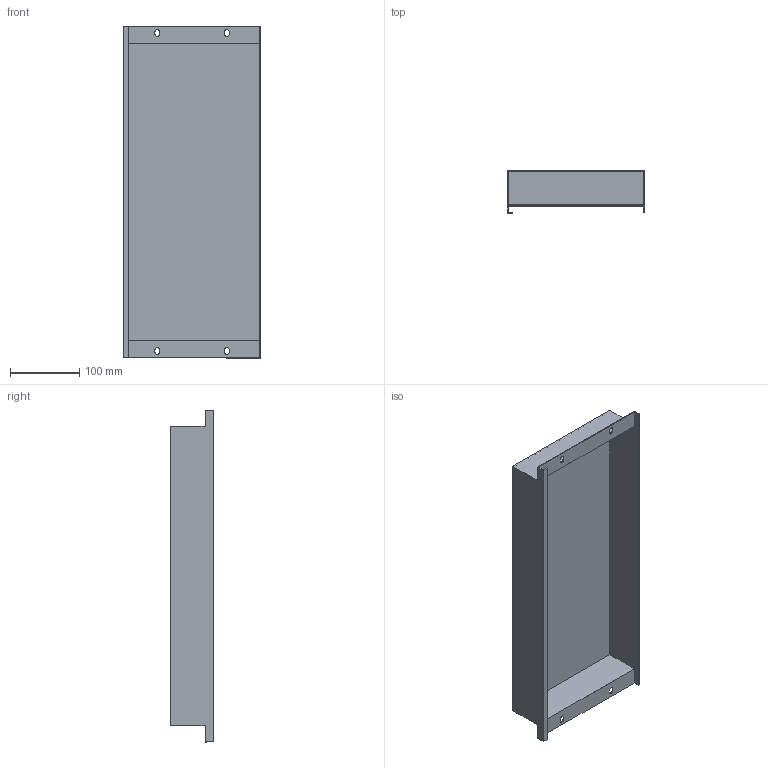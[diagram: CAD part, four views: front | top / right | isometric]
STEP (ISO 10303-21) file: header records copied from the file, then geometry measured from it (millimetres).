
FILE_DESCRIPTION (( 'STEP AP214' ), '1' );
FILE_NAME ('FO-00-PVSU-020-060 Ïëàñòðîí âíóòðåííèé óãëóáëåííûé 200õ600õ50.STEP', '2025-08-26T14:16:58', ( '' ), ( '' ), 'SwSTEP 2.0', 'SolidWorks 2023', '' );
FILE_SCHEMA (( 'AUTOMOTIVE_DESIGN' ));
Length unit declared in the file: millimetre
Products named in the file (1): FO-00-PVSU-020-060 Пластрон внутренний углубленный 200х600х50
Bounding box: 198 x 62.5 x 479 mm (x, y, z)
Volume: 237903.9 mm3; surface area: 341988.2 mm2
Topology: 1 solids, 1 shells, 42 faces, 120 edges, 80 vertices
Faces by surface type: plane 30, cylinder 12
Entity records: 1407 total; most frequent: CARTESIAN_POINT 243, ORIENTED_EDGE 240, DIRECTION 230, EDGE_CURVE 120, VECTOR 96, LINE 96, VERTEX_POINT 80, AXIS2_PLACEMENT_3D 67
